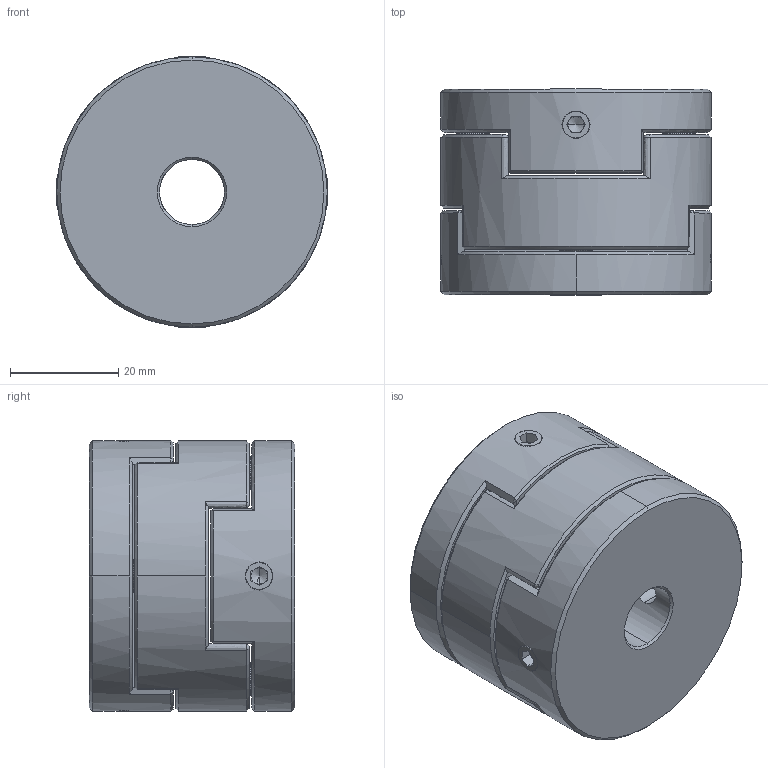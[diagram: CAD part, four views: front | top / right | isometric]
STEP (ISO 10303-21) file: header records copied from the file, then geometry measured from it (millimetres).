
FILE_DESCRIPTION (( 'STEP AP203' ), '1' );
FILE_NAME ('LZ-D-D50L38-12-24.STEP', '2021-10-30T05:43:40', ( '' ), ( '' ), 'SwSTEP 2.0', 'SolidWorks 2018', '' );
FILE_SCHEMA (( 'CONFIG_CONTROL_DESIGN' ));
Length unit declared in the file: millimetre
Products named in the file (1): LZ-D-D50L38-12-24
Bounding box: 50 x 38 x 50 mm (x, y, z)
Volume: 60307.1 mm3; surface area: 18309.3 mm2
Topology: 1 solids, 1 shells, 223 faces, 552 edges, 330 vertices
Faces by surface type: plane 89, bspline 54, cone 54, cylinder 26
Entity records: 7590 total; most frequent: CARTESIAN_POINT 2791, ORIENTED_EDGE 1088, DIRECTION 802, EDGE_CURVE 544, VERTEX_POINT 330, AXIS2_PLACEMENT_3D 290, EDGE_LOOP 248, FACE_OUTER_BOUND 223
